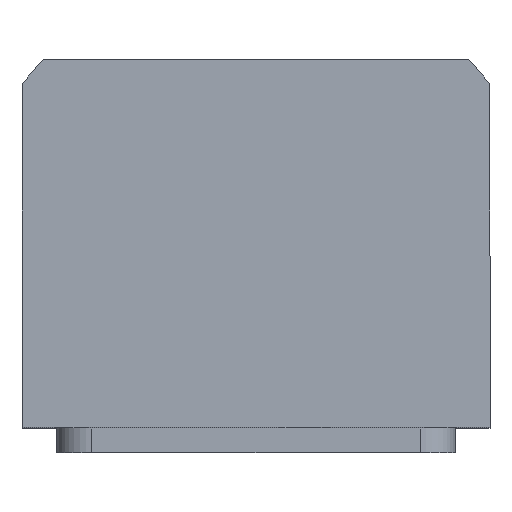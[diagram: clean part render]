
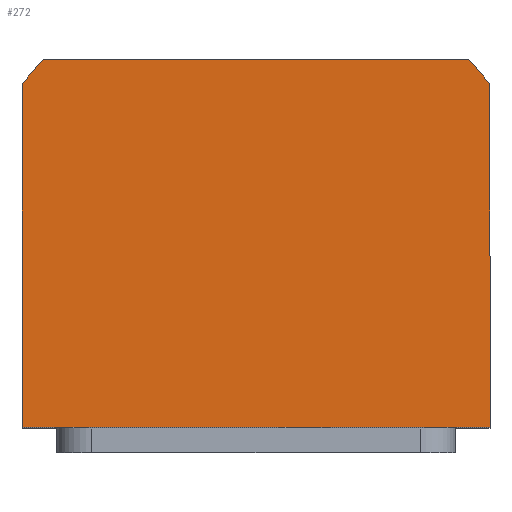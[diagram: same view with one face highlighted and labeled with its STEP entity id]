
A CAD part, top view. The second image highlights one B-rep face of the part: STEP entity #272.
In plain terms, the highlighted planar face has unit normal (0, 0, 1).
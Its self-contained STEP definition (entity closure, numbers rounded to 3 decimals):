
#186 = LINE ( 'NONE', #7086, #2169 ) ;
#207 = DIRECTION ( 'NONE',  ( 0., 1., 0. ) ) ;
#272 = ADVANCED_FACE ( 'NONE', ( #8160 ), #9599, .T. ) ;
#588 = CARTESIAN_POINT ( 'NONE',  ( -47., -34., 57.5 ) ) ;
#684 = ORIENTED_EDGE ( 'NONE', *, *, #7069, .T. ) ;
#889 = LINE ( 'NONE', #3726, #8324 ) ;
#972 = CARTESIAN_POINT ( 'NONE',  ( 47., 34.832, 57.5 ) ) ;
#1433 = EDGE_CURVE ( 'NONE', #9098, #10137, #8435, .T. ) ;
#1607 = DIRECTION ( 'NONE',  ( 0., 0., 1. ) ) ;
#1635 = LINE ( 'NONE', #972, #8139 ) ;
#1901 = DIRECTION ( 'NONE',  ( 1., 0., 0. ) ) ;
#2071 = ORIENTED_EDGE ( 'NONE', *, *, #3709, .T. ) ;
#2092 = EDGE_CURVE ( 'NONE', #6278, #5036, #186, .T. ) ;
#2169 = VECTOR ( 'NONE', #8039, 1000. ) ;
#2184 = CIRCLE ( 'NONE', #6401, 58.5 ) ;
#2235 = EDGE_CURVE ( 'NONE', #6307, #9098, #3240, .T. ) ;
#2416 = CARTESIAN_POINT ( 'NONE',  ( -42.688, 40., 57.5 ) ) ;
#2724 = CARTESIAN_POINT ( 'NONE',  ( 47., -34., 57.5 ) ) ;
#2737 = ORIENTED_EDGE ( 'NONE', *, *, #6949, .T. ) ;
#3026 = DIRECTION ( 'NONE',  ( 0., -1., 0. ) ) ;
#3240 = LINE ( 'NONE', #8511, #7515 ) ;
#3709 = EDGE_CURVE ( 'NONE', #5036, #5386, #1635, .T. ) ;
#3726 = CARTESIAN_POINT ( 'NONE',  ( -47., -34., 57.5 ) ) ;
#4068 = DIRECTION ( 'NONE',  ( 1., 0., 0. ) ) ;
#4093 = CARTESIAN_POINT ( 'NONE',  ( -47., 34.832, 57.5 ) ) ;
#4103 = CARTESIAN_POINT ( 'NONE',  ( 42.688, 40., 57.5 ) ) ;
#4135 = AXIS2_PLACEMENT_3D ( 'NONE', #9315, #10176, #4068 ) ;
#4193 = DIRECTION ( 'NONE',  ( 1., 0., 0. ) ) ;
#4253 = DIRECTION ( 'NONE',  ( -1., 0., 0. ) ) ;
#4380 = CARTESIAN_POINT ( 'NONE',  ( 0., 0., 57.5 ) ) ;
#4743 = ORIENTED_EDGE ( 'NONE', *, *, #2092, .T. ) ;
#5036 = VERTEX_POINT ( 'NONE', #2724 ) ;
#5386 = VERTEX_POINT ( 'NONE', #6951 ) ;
#6278 = VERTEX_POINT ( 'NONE', #588 ) ;
#6307 = VERTEX_POINT ( 'NONE', #4103 ) ;
#6401 = AXIS2_PLACEMENT_3D ( 'NONE', #4380, #8674, #1901 ) ;
#6949 = EDGE_CURVE ( 'NONE', #5386, #6307, #2184, .T. ) ;
#6951 = CARTESIAN_POINT ( 'NONE',  ( 47., 34.832, 57.5 ) ) ;
#7069 = EDGE_CURVE ( 'NONE', #10137, #6278, #889, .T. ) ;
#7086 = CARTESIAN_POINT ( 'NONE',  ( 47., -34., 57.5 ) ) ;
#7515 = VECTOR ( 'NONE', #4253, 1000. ) ;
#7561 = CARTESIAN_POINT ( 'NONE',  ( 0., 0., 57.5 ) ) ;
#7973 = ORIENTED_EDGE ( 'NONE', *, *, #1433, .T. ) ;
#8039 = DIRECTION ( 'NONE',  ( 1., 0., 0. ) ) ;
#8139 = VECTOR ( 'NONE', #207, 1000. ) ;
#8160 = FACE_OUTER_BOUND ( 'NONE', #9235, .T. ) ;
#8172 = ORIENTED_EDGE ( 'NONE', *, *, #2235, .T. ) ;
#8324 = VECTOR ( 'NONE', #3026, 1000. ) ;
#8435 = CIRCLE ( 'NONE', #9534, 58.5 ) ;
#8511 = CARTESIAN_POINT ( 'NONE',  ( -42.688, 40., 57.5 ) ) ;
#8674 = DIRECTION ( 'NONE',  ( 0., 0., 1. ) ) ;
#9098 = VERTEX_POINT ( 'NONE', #2416 ) ;
#9235 = EDGE_LOOP ( 'NONE', ( #4743, #2071, #2737, #8172, #7973, #684 ) ) ;
#9315 = CARTESIAN_POINT ( 'NONE',  ( 0., 0., 57.5 ) ) ;
#9534 = AXIS2_PLACEMENT_3D ( 'NONE', #7561, #1607, #4193 ) ;
#9599 = PLANE ( 'NONE',  #4135 ) ;
#10137 = VERTEX_POINT ( 'NONE', #4093 ) ;
#10176 = DIRECTION ( 'NONE',  ( 0., 0., 1. ) ) ;
